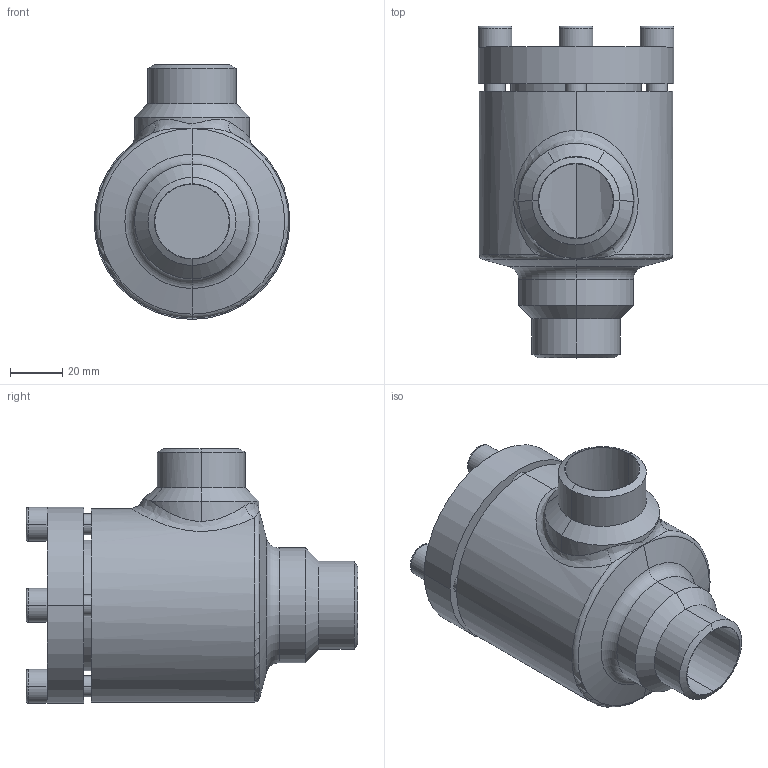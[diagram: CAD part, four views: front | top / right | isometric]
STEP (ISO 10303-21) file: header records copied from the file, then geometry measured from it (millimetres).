
FILE_DESCRIPTION (( 'STEP AP214' ), '1' );
FILE_NAME ('SS52400D12-DN025_R1_PS40.STEP', '2006-05-02T05:50:58', ( 'Herr Grams' ), ( 'AWP GmbH' ), 'SwSTEP 2.0', 'SolidWorks 2002296', '' );
FILE_SCHEMA (( 'AUTOMOTIVE_DESIGN' ));
Length unit declared in the file: millimetre
Products named in the file (5): SS52400D12-DN025_R1_PS40; Gehäuse16400-DN025_Standard; SS52300E13_Deck+Schr-DN25-32_Standard; Deckel52300E13-DN25-32_Standard; Zylinderschraube-DIN912_M 8x 25
Assembly tree (7 placements, depth 3):
  SS52400D12-DN025_R1_PS40
    Gehäuse16400-DN025_Standard
    SS52300E13_Deck+Schr-DN25-32_Standard
      Zylinderschraube-DIN912_M 8x 25  x4
      Deckel52300E13-DN25-32_Standard
Bounding box: 75 x 127 x 97.5 mm (x, y, z)
Volume: 253532.4 mm3; surface area: 64409.6 mm2
Topology: 6 solids, 6 shells, 136 faces, 295 edges, 183 vertices
Faces by surface type: plane 51, cylinder 49, cone 21, torus 12, bspline 3
Entity records: 12491 total; most frequent: CARTESIAN_POINT 10148, DIRECTION 439, ORIENTED_EDGE 362, AXIS2_PLACEMENT_3D 185, EDGE_CURVE 181, VERTEX_POINT 111, EDGE_LOOP 100, CIRCLE 95
